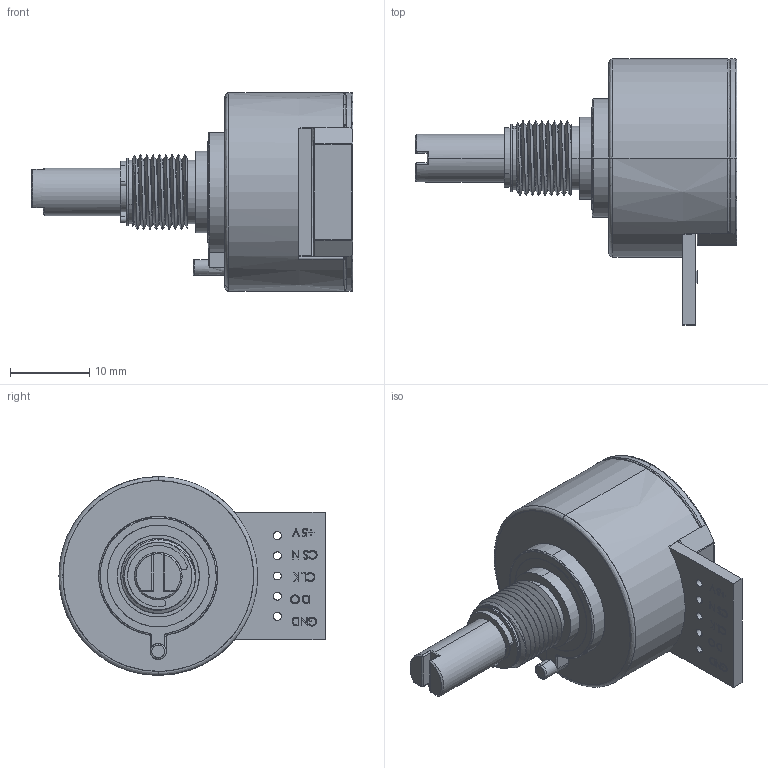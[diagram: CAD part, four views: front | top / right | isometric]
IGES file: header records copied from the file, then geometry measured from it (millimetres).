
Start section: SolidWorks IGES file using analytic representation for surfaces
Global section: file name: O:\08-Produkte_DatBlät&Beiblät&PrLi&Appl&Wettb\8-1 Megatron\8-1-11 Drehgeber\8-1-11-1 Datenblätter\MAB25\MAB25_SER.IGS; native system: SolidWorks 2007; preprocessor: SolidWorks 2007; author: AlessandroC; date: 101202.151042; units: millimetre
Bounding box: 40.5 x 33.5 x 25 mm (x, y, z)
Surface area: 4290 mm2 (no closed solid volume)
Topology: 0 solids, 0 shells, 211 faces, 2913 edges, 2900 vertices
Faces by surface type: bspline 140, revolution 71
